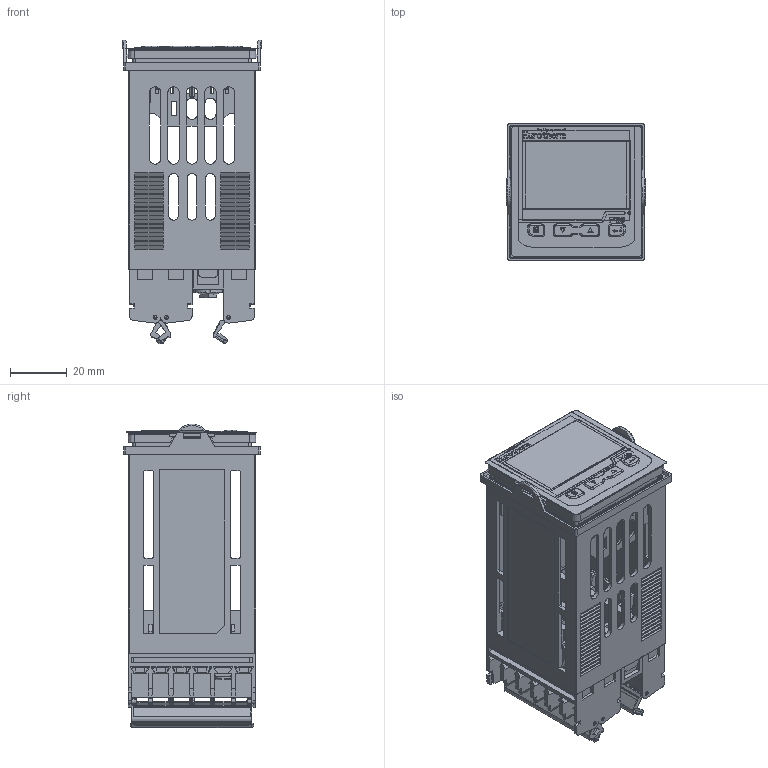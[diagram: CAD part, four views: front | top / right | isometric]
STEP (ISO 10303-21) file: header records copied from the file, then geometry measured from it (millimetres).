
FILE_DESCRIPTION((''),'2;1');
FILE_NAME('P116','2022-11-24T14:48:39',('SESA612473'),('Schneider-Electric'),'CREO PARAMETRIC BY PTC INC, 2021284','CREO PARAMETRIC BY PTC INC, 2021284','');
FILE_SCHEMA(('AP242_MANAGED_MODEL_BASED_3D_ENGINEERING_MIM_LF { 1 0 10303 442 1 1 4 }'));
Products named in the file (1): P116
Bounding box: 49 x 48 x 107.13 mm (x, y, z)
Volume: 55308.3 mm3; surface area: 79296.7 mm2
Topology: 1 solids, 18 shells, 6185 faces, 17543 edges, 11476 vertices
Faces by surface type: plane 4799, cylinder 1093, cone 112, extrusion 83, torus 58, bspline 38, sphere 2
Entity records: 238137 total; most frequent: CARTESIAN_POINT 41705, ORIENTED_EDGE 35062, DIRECTION 31254, EDGE_CURVE 17531, VECTOR 14134, LINE 14051, VERTEX_POINT 11476, AXIS2_PLACEMENT_3D 8560
